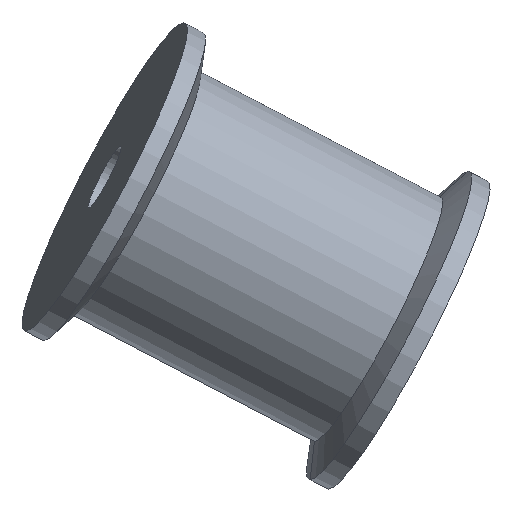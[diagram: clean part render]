
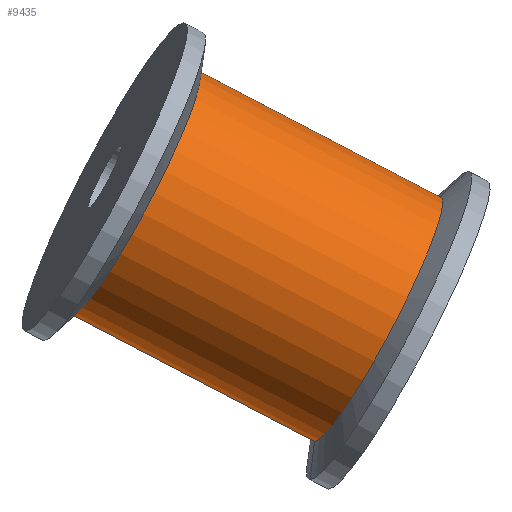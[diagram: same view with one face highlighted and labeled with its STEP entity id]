
A CAD part, front view. The second image highlights one B-rep face of the part: STEP entity #9435.
In plain terms, the highlighted cylindrical face has radius 20 mm (diameter 40 mm), a partial arc.
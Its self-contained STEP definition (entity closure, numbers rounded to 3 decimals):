
#596 = DIRECTION ( 'NONE',  ( 0., 0., -1. ) ) ;
#676 = EDGE_CURVE ( 'NONE', #6056, #2724, #11521, .T. ) ;
#964 = EDGE_CURVE ( 'NONE', #11445, #2724, #4292, .T. ) ;
#1651 = CARTESIAN_POINT ( 'NONE',  ( 0., 0., 25. ) ) ;
#1910 = CIRCLE ( 'NONE', #5137, 20. ) ;
#2135 = EDGE_CURVE ( 'NONE', #7636, #11445, #5293, .T. ) ;
#2143 = DIRECTION ( 'NONE',  ( 0., 0., -1. ) ) ;
#2269 = EDGE_CURVE ( 'NONE', #7636, #6056, #1910, .T. ) ;
#2724 = VERTEX_POINT ( 'NONE', #5262 ) ;
#3617 = CYLINDRICAL_SURFACE ( 'NONE', #6620, 20. ) ;
#4292 = CIRCLE ( 'NONE', #11559, 20. ) ;
#5137 = AXIS2_PLACEMENT_3D ( 'NONE', #5944, #596, #5766 ) ;
#5262 = CARTESIAN_POINT ( 'NONE',  ( -20., 0., -20. ) ) ;
#5272 = ORIENTED_EDGE ( 'NONE', *, *, #2269, .T. ) ;
#5280 = DIRECTION ( 'NONE',  ( 0., 0., -1. ) ) ;
#5293 = LINE ( 'NONE', #8951, #11627 ) ;
#5646 = DIRECTION ( 'NONE',  ( -1., 0., 0. ) ) ;
#5766 = DIRECTION ( 'NONE',  ( -1., 0., 0. ) ) ;
#5944 = CARTESIAN_POINT ( 'NONE',  ( 0., 0., 20. ) ) ;
#6056 = VERTEX_POINT ( 'NONE', #9456 ) ;
#6122 = DIRECTION ( 'NONE',  ( -1., 0., 0. ) ) ;
#6399 = VECTOR ( 'NONE', #9546, 1000. ) ;
#6448 = ORIENTED_EDGE ( 'NONE', *, *, #676, .T. ) ;
#6620 = AXIS2_PLACEMENT_3D ( 'NONE', #1651, #5280, #6122 ) ;
#6797 = CARTESIAN_POINT ( 'NONE',  ( 20., 0., 20. ) ) ;
#7636 = VERTEX_POINT ( 'NONE', #6797 ) ;
#8701 = ORIENTED_EDGE ( 'NONE', *, *, #2135, .F. ) ;
#8723 = ORIENTED_EDGE ( 'NONE', *, *, #964, .F. ) ;
#8775 = CARTESIAN_POINT ( 'NONE',  ( -20., 0., 25. ) ) ;
#8829 = EDGE_LOOP ( 'NONE', ( #8701, #5272, #6448, #8723 ) ) ;
#8951 = CARTESIAN_POINT ( 'NONE',  ( 20., 0., 25. ) ) ;
#9435 = ADVANCED_FACE ( 'NONE', ( #10836 ), #3617, .T. ) ;
#9456 = CARTESIAN_POINT ( 'NONE',  ( -20., 0., 20. ) ) ;
#9546 = DIRECTION ( 'NONE',  ( 0., 0., -1. ) ) ;
#9771 = CARTESIAN_POINT ( 'NONE',  ( 0., 0., -20. ) ) ;
#10622 = CARTESIAN_POINT ( 'NONE',  ( 20., 0., -20. ) ) ;
#10836 = FACE_OUTER_BOUND ( 'NONE', #8829, .T. ) ;
#11445 = VERTEX_POINT ( 'NONE', #10622 ) ;
#11521 = LINE ( 'NONE', #8775, #6399 ) ;
#11559 = AXIS2_PLACEMENT_3D ( 'NONE', #9771, #2143, #5646 ) ;
#11627 = VECTOR ( 'NONE', #11700, 1000. ) ;
#11700 = DIRECTION ( 'NONE',  ( 0., 0., -1. ) ) ;
